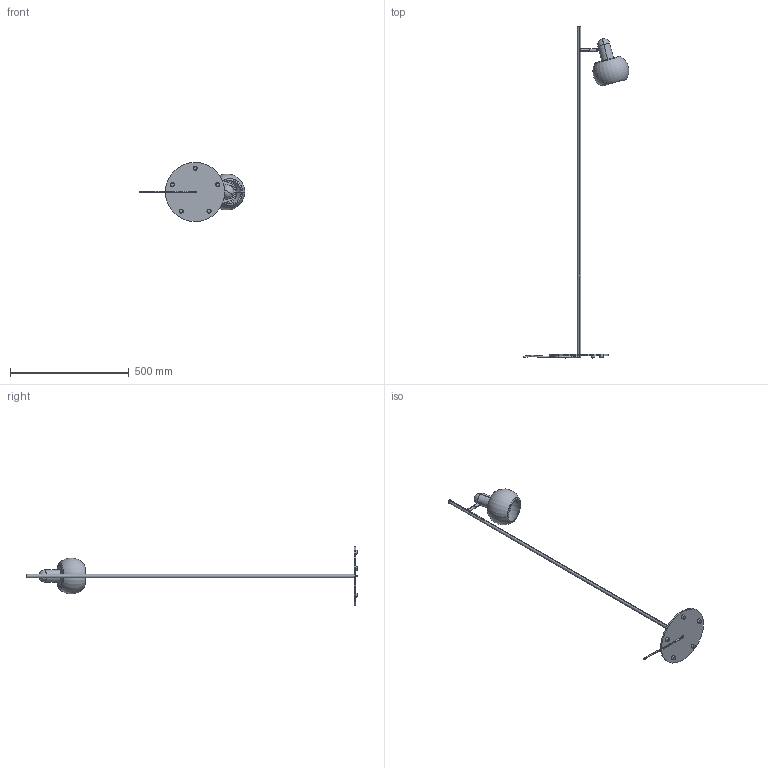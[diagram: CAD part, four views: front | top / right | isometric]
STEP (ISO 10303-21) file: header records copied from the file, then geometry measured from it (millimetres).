
FILE_DESCRIPTION (( 'STEP AP214' ), '1' );
FILE_NAME ('BF 20 floor.STEP', '2020-09-03T08:28:44', ( '' ), ( '' ), 'SwSTEP 2.0', 'SolidWorks 2020', '' );
FILE_SCHEMA (( 'AUTOMOTIVE_DESIGN' ));
Length unit declared in the file: millimetre
Products named in the file (15): BF 20 socket cover table; 70106 E27 socket insert, black, EU and AU; E27 Socket+wire+bulb; 38005 Cable protector E27 kl.2 transparent; BF 20 floor base; BF 20 small table shade assembly; E27 GLOBE lille Ø60mm; 28301 part 1; 28301 part 2; 70108 E27 socket bottom, black, EU and AU; E27 Socket, black, plain 70042, 70108, 70106, 38005; 70042 E27 Socket outer shell, black; BF 20 floor; 28301 Swivel joint chrome used in Ball table lamp FPL Ø13x44 M10-M8_15 deg; BF 20 metal shade floor and table
Assembly tree (14 placements, depth 5):
  BF 20 floor
    BF 20 floor base
    BF 20 small table shade assembly
      BF 20 socket cover table
      BF 20 metal shade floor and table
      E27 Socket+wire+bulb
        E27 GLOBE lille Ø60mm
        E27 Socket, black, plain 70042, 70108, 70106, 38005
          70042 E27 Socket outer shell, black
          70108 E27 socket bottom, black, EU and AU
          70106 E27 socket insert, black, EU and AU
          38005 Cable protector E27 kl.2 transparent
    28301 Swivel joint chrome used in Ball table lamp FPL Ø13x44 M10-M8_15 deg
      28301 part 2
      28301 part 1
Bounding box: 445.51 x 1400 x 250 mm (x, y, z)
Volume: 598012.7 mm3; surface area: 415910.1 mm2
Topology: 21 solids, 21 shells, 248 faces, 529 edges, 331 vertices
Faces by surface type: cylinder 94, plane 71, torus 39, cone 26, sphere 14, bspline 4
Entity records: 10993 total; most frequent: CARTESIAN_POINT 4797, DIRECTION 1340, ORIENTED_EDGE 1006, AXIS2_PLACEMENT_3D 592, EDGE_CURVE 503, CIRCLE 327, VERTEX_POINT 317, EDGE_LOOP 288
